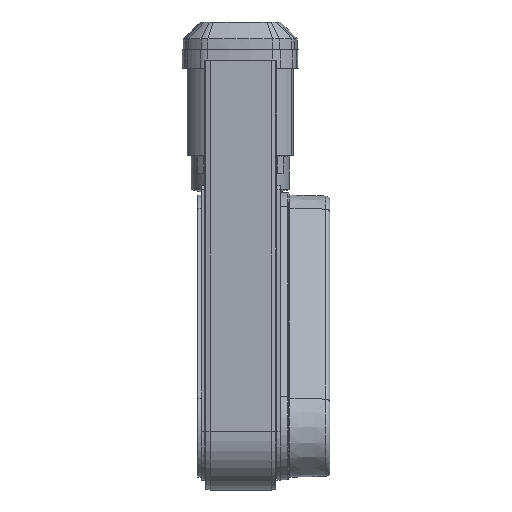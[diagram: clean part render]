
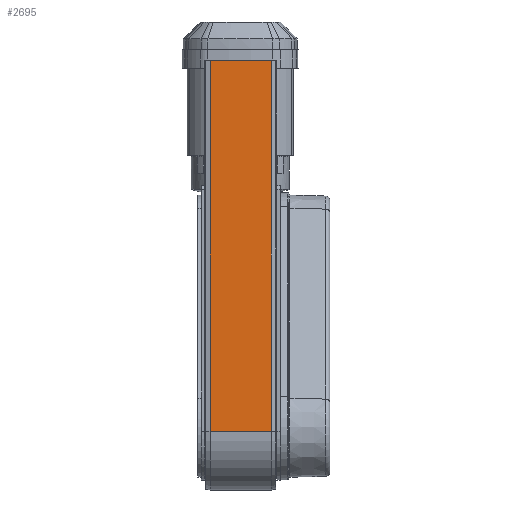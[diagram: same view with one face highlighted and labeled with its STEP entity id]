
A CAD part, top view. The second image highlights one B-rep face of the part: STEP entity #2695.
In plain terms, the highlighted planar face has unit normal (0, 0, 1) as drawn and (0, 1, 0) by its records, which use the part's own axes.
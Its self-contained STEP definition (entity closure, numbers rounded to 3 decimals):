
#2406=CARTESIAN_POINT('',(56.145,96.112,440.0));
#2407=VERTEX_POINT('',#2406);
#2439=CARTESIAN_POINT('',(129.145,96.112,440.0));
#2440=VERTEX_POINT('',#2439);
#2448=CARTESIAN_POINT('',(56.145,96.112,440.0));
#2449=DIRECTION('',(1.0,0.0,0.0));
#2450=VECTOR('',#2449,73.0);
#2451=LINE('',#2448,#2450);
#2452=EDGE_CURVE('',#2407,#2440,#2451,.T.);
#2646=CARTESIAN_POINT('',(56.145,96.112,0.0));
#2647=VERTEX_POINT('',#2646);
#2648=CARTESIAN_POINT('',(56.145,96.112,0.0));
#2649=DIRECTION('',(0.0,0.0,1.0));
#2650=VECTOR('',#2649,440.0);
#2651=LINE('',#2648,#2650);
#2652=EDGE_CURVE('',#2647,#2407,#2651,.T.);
#2672=CARTESIAN_POINT('',(56.145,96.112,0.0));
#2673=DIRECTION('',(0.0,1.0,0.0));
#2674=DIRECTION('',(0.0,0.0,1.0));
#2675=AXIS2_PLACEMENT_3D('',#2672,#2673,#2674);
#2676=PLANE('',#2675);
#2677=CARTESIAN_POINT('',(129.145,96.112,0.0));
#2678=VERTEX_POINT('',#2677);
#2679=CARTESIAN_POINT('',(129.145,96.112,0.0));
#2680=DIRECTION('',(0.0,0.0,1.0));
#2681=VECTOR('',#2680,440.0);
#2682=LINE('',#2679,#2681);
#2683=EDGE_CURVE('',#2678,#2440,#2682,.T.);
#2684=ORIENTED_EDGE('',*,*,#2683,.F.);
#2685=CARTESIAN_POINT('',(129.145,96.112,0.0));
#2686=DIRECTION('',(-1.0,0.0,0.0));
#2687=VECTOR('',#2686,73.0);
#2688=LINE('',#2685,#2687);
#2689=EDGE_CURVE('',#2678,#2647,#2688,.T.);
#2690=ORIENTED_EDGE('',*,*,#2689,.T.);
#2691=ORIENTED_EDGE('',*,*,#2652,.T.);
#2692=ORIENTED_EDGE('',*,*,#2452,.T.);
#2693=EDGE_LOOP('',(#2684,#2690,#2691,#2692));
#2694=FACE_OUTER_BOUND('',#2693,.T.);
#2695=ADVANCED_FACE('',(#2694),#2676,.T.);
